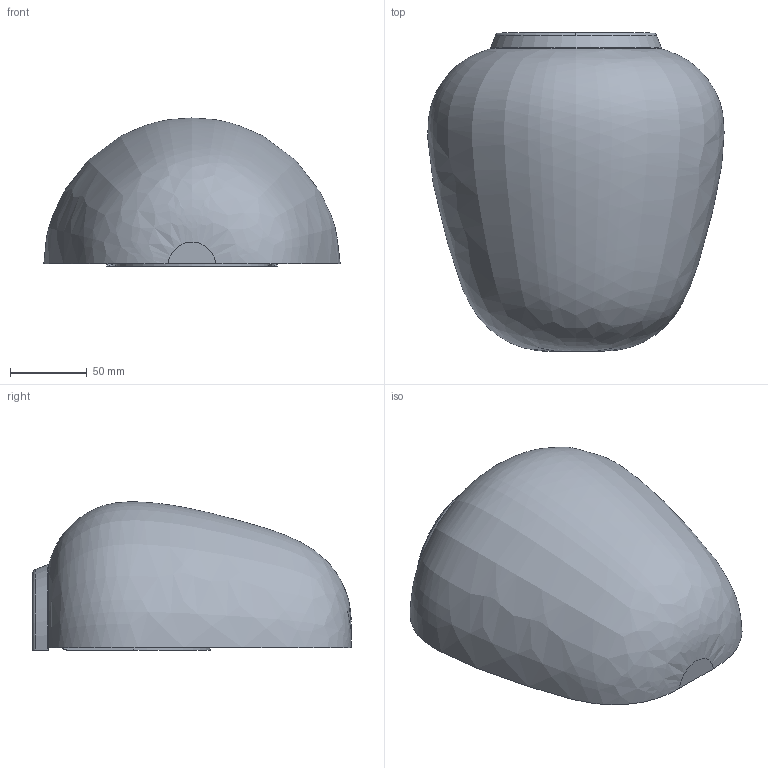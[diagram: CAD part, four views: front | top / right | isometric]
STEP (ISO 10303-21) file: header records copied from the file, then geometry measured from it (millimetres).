
FILE_DESCRIPTION (( 'STEP AP214' ), '1' );
FILE_NAME ('244_3-SEMI_W_XX_3D.STEP', '2021-05-04T12:35:04', ( '' ), ( '' ), 'SwSTEP 2.0', 'SolidWorks 2021', '' );
FILE_SCHEMA (( 'AUTOMOTIVE_DESIGN' ));
Length unit declared in the file: millimetre
Products named in the file (1): 244_3-SEMI_W_XX_3D
Bounding box: 193.51 x 208.11 x 96.71 mm (x, y, z)
Volume: 338928.9 mm3; surface area: 159868.4 mm2
Topology: 6 solids, 6 shells, 359 faces, 958 edges, 630 vertices
Faces by surface type: plane 178, cylinder 111, bspline 35, cone 19, torus 16
Entity records: 16876 total; most frequent: CARTESIAN_POINT 3946, ORIENTED_EDGE 1916, DIRECTION 1743, EDGE_CURVE 958, VERTEX_POINT 630, AXIS2_PLACEMENT_3D 610, LINE 523, VECTOR 523
